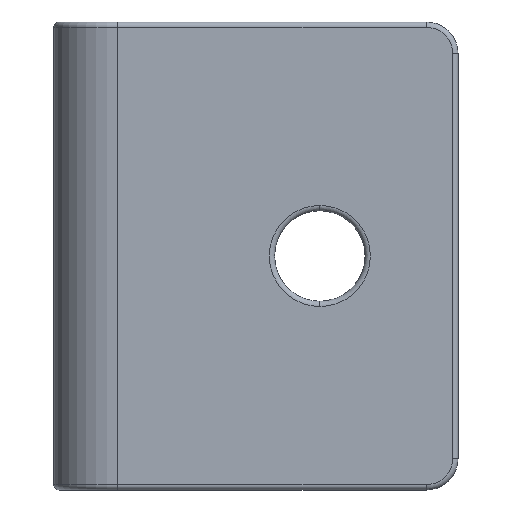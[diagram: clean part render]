
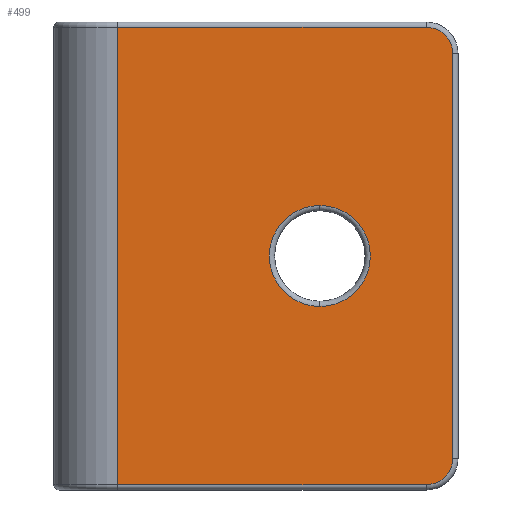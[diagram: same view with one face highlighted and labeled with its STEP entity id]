
A CAD part, front view. The second image highlights one B-rep face of the part: STEP entity #499.
In plain terms, the highlighted planar face has unit normal (0, -1, 0).
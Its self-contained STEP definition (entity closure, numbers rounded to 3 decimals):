
#13 = CARTESIAN_POINT ( 'NONE',  ( 18.699, -6.074, -43.5 ) ) ;
#23 = DIRECTION ( 'NONE',  ( 0., -1., 0. ) ) ;
#32 = DIRECTION ( 'NONE',  ( 0., 1., 0. ) ) ;
#42 = CIRCLE ( 'NONE', #809, 2.5 ) ;
#69 = DIRECTION ( 'NONE',  ( 0., 0., -1. ) ) ;
#141 = EDGE_CURVE ( 'NONE', #1738, #268, #42, .T. ) ;
#158 = CARTESIAN_POINT ( 'NONE',  ( 21.199, -6.074, -3. ) ) ;
#164 = EDGE_LOOP ( 'NONE', ( #197, #399 ) ) ;
#191 = VERTEX_POINT ( 'NONE', #1581 ) ;
#197 = ORIENTED_EDGE ( 'NONE', *, *, #890, .T. ) ;
#236 = LINE ( 'NONE', #781, #584 ) ;
#268 = VERTEX_POINT ( 'NONE', #792 ) ;
#318 = CIRCLE ( 'NONE', #1191, 4.75 ) ;
#328 = DIRECTION ( 'NONE',  ( 0., 0., -1. ) ) ;
#344 = DIRECTION ( 'NONE',  ( 0., -1., 0. ) ) ;
#349 = ORIENTED_EDGE ( 'NONE', *, *, #622, .T. ) ;
#379 = CARTESIAN_POINT ( 'NONE',  ( 21.199, -6.074, -3. ) ) ;
#388 = EDGE_CURVE ( 'NONE', #1576, #1141, #1174, .T. ) ;
#399 = ORIENTED_EDGE ( 'NONE', *, *, #1051, .T. ) ;
#420 = AXIS2_PLACEMENT_3D ( 'NONE', #1249, #23, #571 ) ;
#443 = LINE ( 'NONE', #986, #1587 ) ;
#466 = PLANE ( 'NONE',  #703 ) ;
#499 = ADVANCED_FACE ( 'NONE', ( #1136, #1687 ), #466, .T. ) ;
#506 = LINE ( 'NONE', #1050, #1718 ) ;
#571 = DIRECTION ( 'NONE',  ( 0., 0., -1. ) ) ;
#581 = DIRECTION ( 'NONE',  ( 0., 0., -1. ) ) ;
#584 = VECTOR ( 'NONE', #1326, 1000. ) ;
#622 = EDGE_CURVE ( 'NONE', #1141, #191, #506, .T. ) ;
#625 = ORIENTED_EDGE ( 'NONE', *, *, #388, .T. ) ;
#626 = EDGE_CURVE ( 'NONE', #1226, #1738, #236, .T. ) ;
#647 = CARTESIAN_POINT ( 'NONE',  ( 18.699, -6.074, -0.5 ) ) ;
#700 = DIRECTION ( 'NONE',  ( 0., 0., 1. ) ) ;
#703 = AXIS2_PLACEMENT_3D ( 'NONE', #1005, #1547, #328 ) ;
#750 = CARTESIAN_POINT ( 'NONE',  ( 8.699, -6.074, -22. ) ) ;
#774 = VERTEX_POINT ( 'NONE', #803 ) ;
#780 = CARTESIAN_POINT ( 'NONE',  ( -10.301, -6.074, -43.5 ) ) ;
#781 = CARTESIAN_POINT ( 'NONE',  ( -16.301, -6.074, -43.5 ) ) ;
#792 = CARTESIAN_POINT ( 'NONE',  ( 21.199, -6.074, -41. ) ) ;
#803 = CARTESIAN_POINT ( 'NONE',  ( 8.699, -6.074, -26.75 ) ) ;
#809 = AXIS2_PLACEMENT_3D ( 'NONE', #1564, #344, #884 ) ;
#858 = EDGE_LOOP ( 'NONE', ( #625, #349, #1628, #1295, #1322, #1514 ) ) ;
#884 = DIRECTION ( 'NONE',  ( 0., 0., -1. ) ) ;
#890 = EDGE_CURVE ( 'NONE', #774, #1059, #318, .T. ) ;
#986 = CARTESIAN_POINT ( 'NONE',  ( -10.301, -6.074, -44. ) ) ;
#1005 = CARTESIAN_POINT ( 'NONE',  ( -16.301, -6.074, -44. ) ) ;
#1050 = CARTESIAN_POINT ( 'NONE',  ( -16.301, -6.074, -0.5 ) ) ;
#1051 = EDGE_CURVE ( 'NONE', #1059, #774, #1730, .T. ) ;
#1059 = VERTEX_POINT ( 'NONE', #1715 ) ;
#1136 = FACE_BOUND ( 'NONE', #164, .T. ) ;
#1141 = VERTEX_POINT ( 'NONE', #647 ) ;
#1174 = CIRCLE ( 'NONE', #420, 2.5 ) ;
#1191 = AXIS2_PLACEMENT_3D ( 'NONE', #1257, #32, #581 ) ;
#1226 = VERTEX_POINT ( 'NONE', #780 ) ;
#1249 = CARTESIAN_POINT ( 'NONE',  ( 18.699, -6.074, -3. ) ) ;
#1257 = CARTESIAN_POINT ( 'NONE',  ( 8.699, -6.074, -22. ) ) ;
#1295 = ORIENTED_EDGE ( 'NONE', *, *, #626, .T. ) ;
#1298 = DIRECTION ( 'NONE',  ( 0., 1., 0. ) ) ;
#1322 = ORIENTED_EDGE ( 'NONE', *, *, #141, .T. ) ;
#1326 = DIRECTION ( 'NONE',  ( 1., 0., 0. ) ) ;
#1379 = LINE ( 'NONE', #158, #1654 ) ;
#1395 = EDGE_CURVE ( 'NONE', #268, #1576, #1379, .T. ) ;
#1449 = EDGE_CURVE ( 'NONE', #1226, #191, #443, .T. ) ;
#1507 = AXIS2_PLACEMENT_3D ( 'NONE', #750, #1298, #69 ) ;
#1514 = ORIENTED_EDGE ( 'NONE', *, *, #1395, .T. ) ;
#1534 = DIRECTION ( 'NONE',  ( 0., 0., 1. ) ) ;
#1547 = DIRECTION ( 'NONE',  ( 0., -1., 0. ) ) ;
#1564 = CARTESIAN_POINT ( 'NONE',  ( 18.699, -6.074, -41. ) ) ;
#1576 = VERTEX_POINT ( 'NONE', #379 ) ;
#1581 = CARTESIAN_POINT ( 'NONE',  ( -10.301, -6.074, -0.5 ) ) ;
#1587 = VECTOR ( 'NONE', #1534, 1000. ) ;
#1598 = DIRECTION ( 'NONE',  ( -1., 0., 0. ) ) ;
#1628 = ORIENTED_EDGE ( 'NONE', *, *, #1449, .F. ) ;
#1654 = VECTOR ( 'NONE', #700, 1000. ) ;
#1687 = FACE_OUTER_BOUND ( 'NONE', #858, .T. ) ;
#1715 = CARTESIAN_POINT ( 'NONE',  ( 8.699, -6.074, -17.25 ) ) ;
#1718 = VECTOR ( 'NONE', #1598, 1000. ) ;
#1730 = CIRCLE ( 'NONE', #1507, 4.75 ) ;
#1738 = VERTEX_POINT ( 'NONE', #13 ) ;
